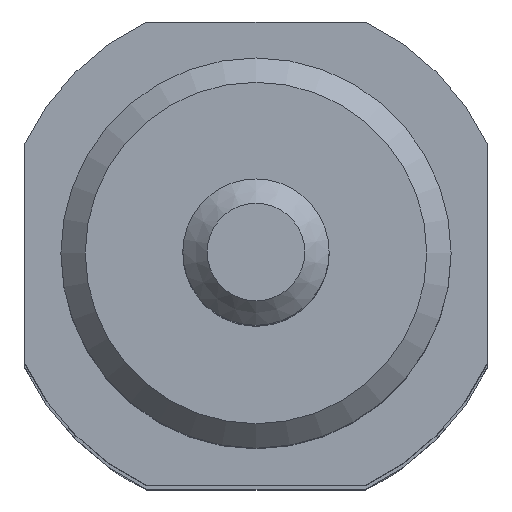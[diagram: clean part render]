
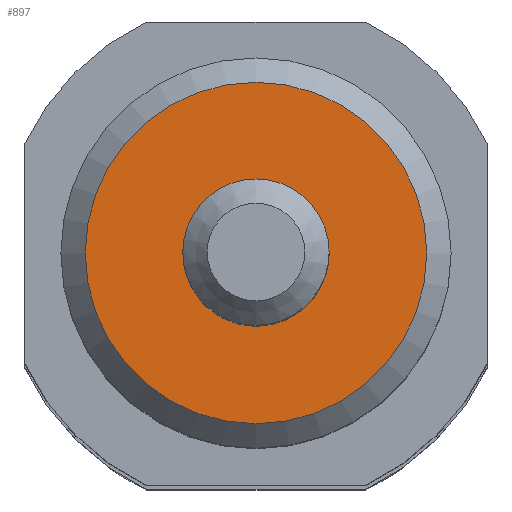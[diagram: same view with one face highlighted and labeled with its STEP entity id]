
A CAD part, top view. The second image highlights one B-rep face of the part: STEP entity #897.
In plain terms, the highlighted planar face has unit normal (0, 0, 1).
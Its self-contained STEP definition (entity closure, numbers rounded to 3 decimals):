
#835=CARTESIAN_POINT('',(7.,0.,140.));
#836=VERTEX_POINT('',#835);
#837=CARTESIAN_POINT('',(0.,0.,140.));
#838=DIRECTION('',(0.0,0.0,-1.0));
#839=DIRECTION('',(-1.0,0.0,0.0));
#840=AXIS2_PLACEMENT_3D('',#837,#838,#839);
#841=CIRCLE('',#840,7.);
#842=EDGE_CURVE('',#836,#836,#841,.T.);
#878=CARTESIAN_POINT('',(0.,0.,140.));
#879=DIRECTION('',(0.0,0.0,-1.0));
#880=DIRECTION('',(-1.0,0.0,0.0));
#881=AXIS2_PLACEMENT_3D('',#878,#879,#880);
#882=PLANE('',#881);
#883=ORIENTED_EDGE('',*,*,#842,.F.);
#884=EDGE_LOOP('',(#883));
#885=FACE_OUTER_BOUND('',#884,.T.);
#886=CARTESIAN_POINT('',(3.,0.,140.));
#887=VERTEX_POINT('',#886);
#888=CARTESIAN_POINT('',(0.,0.,140.));
#889=DIRECTION('',(0.0,0.0,-1.0));
#890=DIRECTION('',(-1.0,0.0,0.0));
#891=AXIS2_PLACEMENT_3D('',#888,#889,#890);
#892=CIRCLE('',#891,3.);
#893=EDGE_CURVE('',#887,#887,#892,.T.);
#894=ORIENTED_EDGE('',*,*,#893,.T.);
#895=EDGE_LOOP('',(#894));
#896=FACE_BOUND('',#895,.T.);
#897=ADVANCED_FACE('',(#885,#896),#882,.F.);
